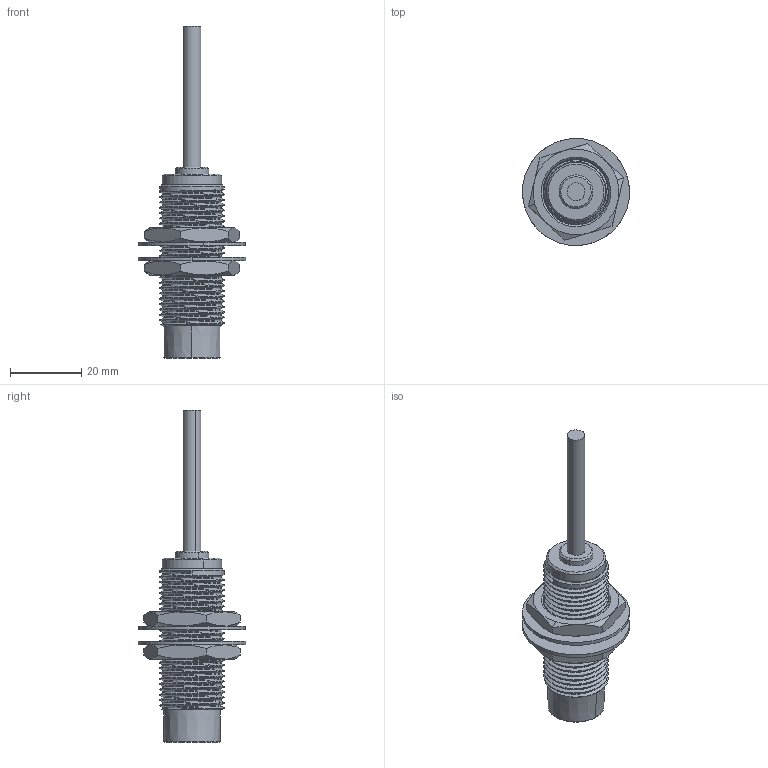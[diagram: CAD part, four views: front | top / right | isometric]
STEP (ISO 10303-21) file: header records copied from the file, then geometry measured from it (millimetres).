
FILE_DESCRIPTION (( 'STEP AP214' ), '1' );
FILE_NAME ('SN18-D-GX.STEP', '2025-09-25T01:56:36', ( 'Windows User' ), ( 'P R C' ), 'SwSTEP 2.0', 'SolidWorks 2023', '' );
FILE_SCHEMA (( 'AUTOMOTIVE_DESIGN' ));
Length unit declared in the file: millimetre
Products named in the file (9): 非埋前塞; SN18-D-GX; 零件171_装配体55_1; GX 18 后塞_1; M18垫片; SN18-B-GX(2); M18螺母; 零件170_装配体55_1; LED
Assembly tree (10 placements, depth 3):
  SN18-D-GX
    SN18-B-GX(2)
      零件170_装配体55_1
      GX 18 后塞_1
      零件171_装配体55_1
    M18垫片  x2
    M18螺母  x2
    非埋前塞
    LED
Bounding box: 30 x 30 x 93 mm (x, y, z)
Volume: 11313.4 mm3; surface area: 12213.8 mm2
Topology: 9 solids, 9 shells, 221 faces, 541 edges, 354 vertices
Faces by surface type: cylinder 102, plane 61, cone 45, bspline 11, torus 2
Entity records: 13184 total; most frequent: CARTESIAN_POINT 8882, ORIENTED_EDGE 908, DIRECTION 762, EDGE_CURVE 454, AXIS2_PLACEMENT_3D 304, VERTEX_POINT 297, EDGE_LOOP 209, ADVANCED_FACE 186
